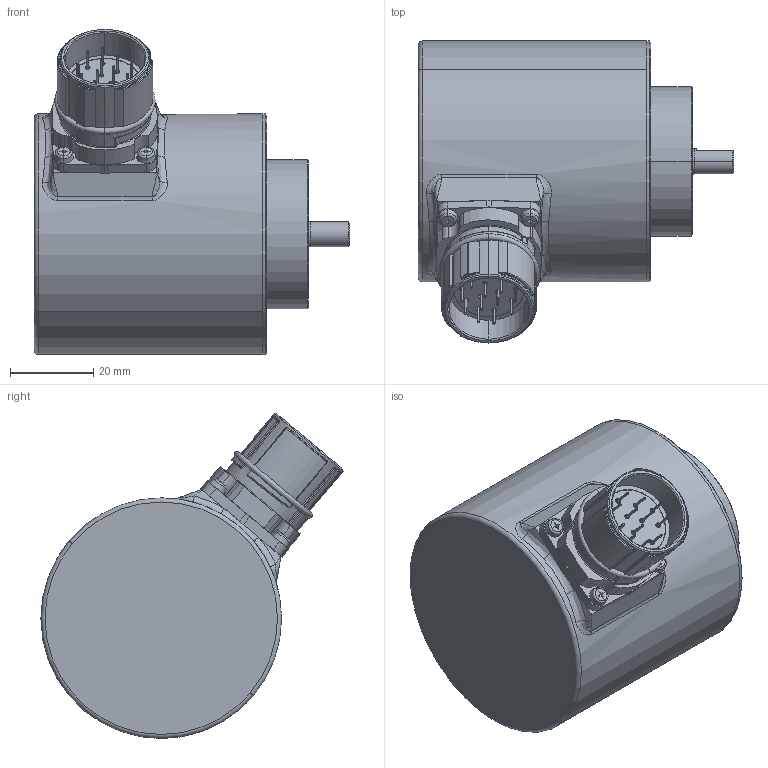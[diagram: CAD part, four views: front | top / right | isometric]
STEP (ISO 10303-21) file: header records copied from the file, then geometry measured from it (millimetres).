
FILE_DESCRIPTION (( 'STEP AP203' ), '1' );
FILE_NAME ('8.5805.11X5.XXXX.STEP', '2013-12-05T14:09:00', ( 'HeirlerN' ), ( 'Microsoft' ), 'SwSTEP 2.0', 'SolidWorks 2013', '' );
FILE_SCHEMA (( 'CONFIG_CONTROL_DESIGN' ));
Length unit declared in the file: millimetre
Products named in the file (1): 8.5805.11X5.XXXX
Bounding box: 75.95 x 72.82 x 78.34 mm (x, y, z)
Volume: 59436.5 mm3; surface area: 51111.8 mm2
Topology: 23 solids, 23 shells, 942 faces, 2202 edges, 1334 vertices
Faces by surface type: cylinder 421, plane 215, cone 114, torus 73, sphere 68, bspline 51
Entity records: 29965 total; most frequent: CARTESIAN_POINT 8473, DIRECTION 4854, ORIENTED_EDGE 4192, EDGE_CURVE 2096, AXIS2_PLACEMENT_3D 2055, VERTEX_POINT 1296, CIRCLE 1163, EDGE_LOOP 1112
